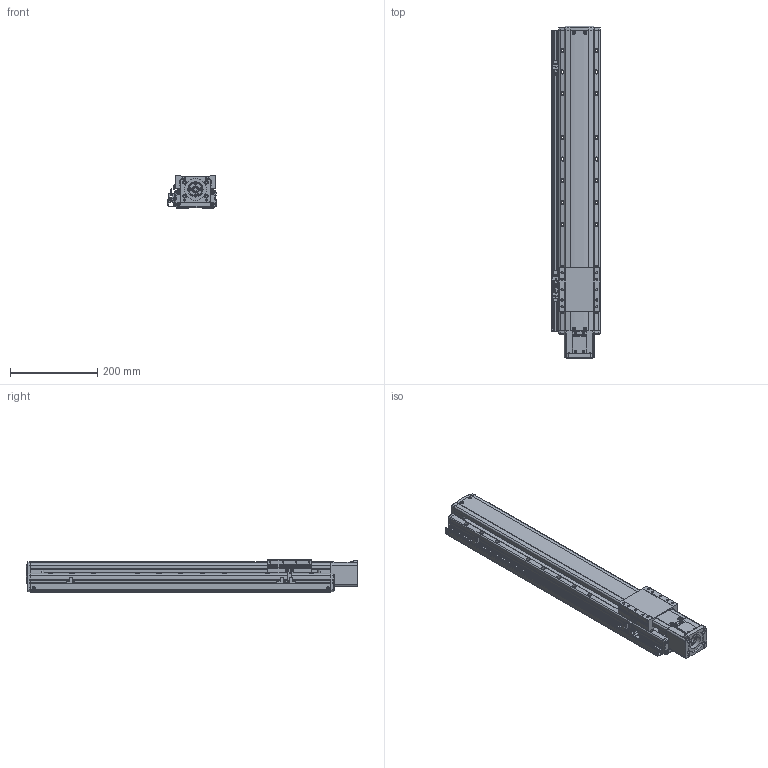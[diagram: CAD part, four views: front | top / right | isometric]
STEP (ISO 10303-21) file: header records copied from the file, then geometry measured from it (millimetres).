
FILE_DESCRIPTION(('STEP AP214'),'1');
FILE_NAME('Z:/Web/3D/PSA95/STP/PSA95-500 (3D)/PSA95ㅁㅁ-500S+3SL.stp','2014-07-03T00:25:12',(' '),(' '),'Spatial InterOp 3D',' ',' ');
FILE_SCHEMA(('automotive_design'));
Length unit declared in the file: millimetre
Products named in the file (53): BASE; RRCV; 스크루 : Round - M4.0 x 10.0; 너트 : Square - M10.0 x 220.7419; RR1500; FRCV-090; 스크루 : Round - M4.0 x 6.0; SLBL-PA90; SSFX-SAN65; CPLCV-SAN65; 스크루 : Round - M3.0 x 6.0; MTHZ-PA70/90-S60A-3; 스크루 : Socket - M4.0 x 20.0; NONE; EE-SX674; SBK-SX674-352; M3.0 x 6.0; SRL-16x17-380L; SGD-PA95; 스크루 : Round - M3.0 x 8.0
Bounding box: 111 x 762.5 x 74 mm (x, y, z)
Volume: 4060296.6 mm3; surface area: 541127.4 mm2
Topology: 53 solids, 87 shells, 3580 faces, 9200 edges, 5836 vertices
Faces by surface type: plane 1815, cylinder 1094, cone 415, torus 158, sphere 66, bspline 32
Entity records: 141150 total; most frequent: CARTESIAN_POINT 22806, DIRECTION 19240, ORIENTED_EDGE 18096, EDGE_CURVE 9048, AXIS2_PLACEMENT_3D 6832, VERTEX_POINT 5836, LINE 5576, VECTOR 5576
